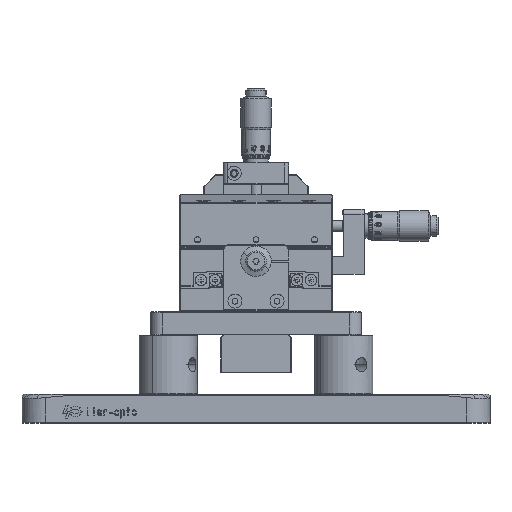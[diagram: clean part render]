
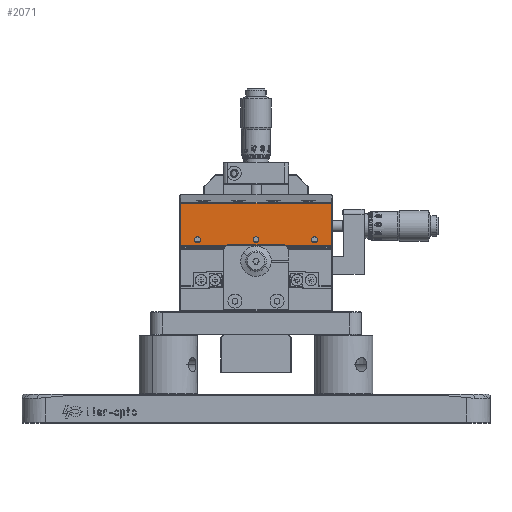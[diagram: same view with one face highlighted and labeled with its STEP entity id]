
A CAD part, top view. The second image highlights one B-rep face of the part: STEP entity #2071.
In plain terms, the highlighted planar face has unit normal (0, 0, 1).
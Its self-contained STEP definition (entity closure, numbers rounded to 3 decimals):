
#5 = CARTESIAN_POINT ( 'NONE',  ( -143.59, 34.458, 1018.615 ) ) ;
#1437 = EDGE_CURVE ( 'NONE', #48461, #66360, #79808, .T. ) ;
#2071 = ADVANCED_FACE ( 'NONE', ( #79271, #21317, #36901, #73392 ), #34975, .F. ) ;
#2519 = CIRCLE ( 'NONE', #53930, 1.25 ) ;
#3065 = VERTEX_POINT ( 'NONE', #87649 ) ;
#3272 = CARTESIAN_POINT ( 'NONE',  ( -144.84, 34.458, 1018.615 ) ) ;
#3387 = DIRECTION ( 'NONE',  ( 0., 0., 1. ) ) ;
#3466 = ORIENTED_EDGE ( 'NONE', *, *, #80496, .T. ) ;
#4307 = DIRECTION ( 'NONE',  ( 0., 0., 1. ) ) ;
#4835 = DIRECTION ( 'NONE',  ( 1., 0., 0. ) ) ;
#6013 = CARTESIAN_POINT ( 'NONE',  ( -151.09, 50.06, 1018.615 ) ) ;
#6189 = CARTESIAN_POINT ( 'NONE',  ( -150.79, 47.758, 1018.615 ) ) ;
#8372 = EDGE_LOOP ( 'NONE', ( #43527, #26328 ) ) ;
#8744 = DIRECTION ( 'NONE',  ( 1., 0., 0. ) ) ;
#10178 = DIRECTION ( 'NONE',  ( 0., 0., 1. ) ) ;
#12874 = VERTEX_POINT ( 'NONE', #84513 ) ;
#13509 = DIRECTION ( 'NONE',  ( 0., 0., -1. ) ) ;
#14228 = ORIENTED_EDGE ( 'NONE', *, *, #53672, .T. ) ;
#14633 = LINE ( 'NONE', #89139, #75105 ) ;
#15526 = VECTOR ( 'NONE', #43716, 1000. ) ;
#17797 = DIRECTION ( 'NONE',  ( 0., 0., 1. ) ) ;
#20076 = AXIS2_PLACEMENT_3D ( 'NONE', #33526, #4307, #34016 ) ;
#20134 = LINE ( 'NONE', #6013, #67005 ) ;
#20599 = EDGE_CURVE ( 'NONE', #72092, #87051, #51162, .T. ) ;
#20810 = LINE ( 'NONE', #6189, #15526 ) ;
#21317 = FACE_BOUND ( 'NONE', #37591, .T. ) ;
#21546 = CIRCLE ( 'NONE', #66652, 1.25 ) ;
#24268 = EDGE_CURVE ( 'NONE', #3065, #82606, #21546, .T. ) ;
#25594 = DIRECTION ( 'NONE',  ( 1., 0., 0. ) ) ;
#26328 = ORIENTED_EDGE ( 'NONE', *, *, #82106, .F. ) ;
#29573 = DIRECTION ( 'NONE',  ( -1., 0., 0. ) ) ;
#30608 = CIRCLE ( 'NONE', #60180, 1.25 ) ;
#32154 = ORIENTED_EDGE ( 'NONE', *, *, #39651, .F. ) ;
#33526 = CARTESIAN_POINT ( 'NONE',  ( -118.59, 34.458, 1018.615 ) ) ;
#33580 = DIRECTION ( 'NONE',  ( 0., 0., 1. ) ) ;
#34016 = DIRECTION ( 'NONE',  ( 1., 0., 0. ) ) ;
#34975 = PLANE ( 'NONE',  #73458 ) ;
#36901 = FACE_BOUND ( 'NONE', #71920, .T. ) ;
#37162 = EDGE_CURVE ( 'NONE', #71513, #62636, #30608, .T. ) ;
#37505 = DIRECTION ( 'NONE',  ( 0., 1., 0. ) ) ;
#37591 = EDGE_LOOP ( 'NONE', ( #87944, #81024 ) ) ;
#39651 = EDGE_CURVE ( 'NONE', #66360, #48461, #86195, .T. ) ;
#40868 = ORIENTED_EDGE ( 'NONE', *, *, #20599, .T. ) ;
#42497 = EDGE_LOOP ( 'NONE', ( #61515, #3466, #14228, #40868 ) ) ;
#42698 = AXIS2_PLACEMENT_3D ( 'NONE', #94427, #33580, #85202 ) ;
#43527 = ORIENTED_EDGE ( 'NONE', *, *, #37162, .F. ) ;
#43716 = DIRECTION ( 'NONE',  ( 0., -1., 0. ) ) ;
#47182 = AXIS2_PLACEMENT_3D ( 'NONE', #5, #87209, #87688 ) ;
#48461 = VERTEX_POINT ( 'NONE', #3272 ) ;
#49392 = DIRECTION ( 'NONE',  ( -1., 0., 0. ) ) ;
#51162 = LINE ( 'NONE', #73990, #55951 ) ;
#51986 = CARTESIAN_POINT ( 'NONE',  ( -119.84, 34.458, 1018.615 ) ) ;
#53672 = EDGE_CURVE ( 'NONE', #12874, #72092, #14633, .T. ) ;
#53930 = AXIS2_PLACEMENT_3D ( 'NONE', #54076, #3387, #76443 ) ;
#54076 = CARTESIAN_POINT ( 'NONE',  ( -93.59, 34.458, 1018.615 ) ) ;
#55951 = VECTOR ( 'NONE', #37505, 1000. ) ;
#57837 = VERTEX_POINT ( 'NONE', #85536 ) ;
#60164 = CARTESIAN_POINT ( 'NONE',  ( -86.39, 50.06, 1018.615 ) ) ;
#60180 = AXIS2_PLACEMENT_3D ( 'NONE', #85191, #10178, #4835 ) ;
#61300 = ORIENTED_EDGE ( 'NONE', *, *, #1437, .F. ) ;
#61515 = ORIENTED_EDGE ( 'NONE', *, *, #89677, .T. ) ;
#62636 = VERTEX_POINT ( 'NONE', #76499 ) ;
#64663 = CARTESIAN_POINT ( 'NONE',  ( -151.09, 47.758, 1018.615 ) ) ;
#66360 = VERTEX_POINT ( 'NONE', #78240 ) ;
#66652 = AXIS2_PLACEMENT_3D ( 'NONE', #92776, #17797, #25594 ) ;
#67005 = VECTOR ( 'NONE', #49392, 1000. ) ;
#71361 = CIRCLE ( 'NONE', #20076, 1.25 ) ;
#71513 = VERTEX_POINT ( 'NONE', #89294 ) ;
#71920 = EDGE_LOOP ( 'NONE', ( #32154, #61300 ) ) ;
#72092 = VERTEX_POINT ( 'NONE', #95638 ) ;
#73392 = FACE_OUTER_BOUND ( 'NONE', #42497, .T. ) ;
#73458 = AXIS2_PLACEMENT_3D ( 'NONE', #64663, #13509, #29573 ) ;
#73990 = CARTESIAN_POINT ( 'NONE',  ( -86.39, 50.39, 1018.615 ) ) ;
#75105 = VECTOR ( 'NONE', #8744, 1000. ) ;
#76443 = DIRECTION ( 'NONE',  ( 1., 0., 0. ) ) ;
#76499 = CARTESIAN_POINT ( 'NONE',  ( -94.84, 34.458, 1018.615 ) ) ;
#78240 = CARTESIAN_POINT ( 'NONE',  ( -142.34, 34.458, 1018.615 ) ) ;
#79271 = FACE_BOUND ( 'NONE', #8372, .T. ) ;
#79808 = CIRCLE ( 'NONE', #47182, 1.25 ) ;
#80496 = EDGE_CURVE ( 'NONE', #57837, #12874, #20810, .T. ) ;
#81024 = ORIENTED_EDGE ( 'NONE', *, *, #85499, .F. ) ;
#82106 = EDGE_CURVE ( 'NONE', #62636, #71513, #2519, .T. ) ;
#82606 = VERTEX_POINT ( 'NONE', #51986 ) ;
#84513 = CARTESIAN_POINT ( 'NONE',  ( -150.79, 31.958, 1018.615 ) ) ;
#85191 = CARTESIAN_POINT ( 'NONE',  ( -93.59, 34.458, 1018.615 ) ) ;
#85202 = DIRECTION ( 'NONE',  ( 1., 0., 0. ) ) ;
#85499 = EDGE_CURVE ( 'NONE', #82606, #3065, #71361, .T. ) ;
#85536 = CARTESIAN_POINT ( 'NONE',  ( -150.79, 50.06, 1018.615 ) ) ;
#86195 = CIRCLE ( 'NONE', #42698, 1.25 ) ;
#87051 = VERTEX_POINT ( 'NONE', #60164 ) ;
#87209 = DIRECTION ( 'NONE',  ( 0., 0., 1. ) ) ;
#87649 = CARTESIAN_POINT ( 'NONE',  ( -117.34, 34.458, 1018.615 ) ) ;
#87688 = DIRECTION ( 'NONE',  ( 1., 0., 0. ) ) ;
#87944 = ORIENTED_EDGE ( 'NONE', *, *, #24268, .F. ) ;
#89139 = CARTESIAN_POINT ( 'NONE',  ( -151.09, 31.958, 1018.615 ) ) ;
#89294 = CARTESIAN_POINT ( 'NONE',  ( -92.34, 34.458, 1018.615 ) ) ;
#89677 = EDGE_CURVE ( 'NONE', #87051, #57837, #20134, .T. ) ;
#92776 = CARTESIAN_POINT ( 'NONE',  ( -118.59, 34.458, 1018.615 ) ) ;
#94427 = CARTESIAN_POINT ( 'NONE',  ( -143.59, 34.458, 1018.615 ) ) ;
#95638 = CARTESIAN_POINT ( 'NONE',  ( -86.39, 31.958, 1018.615 ) ) ;
